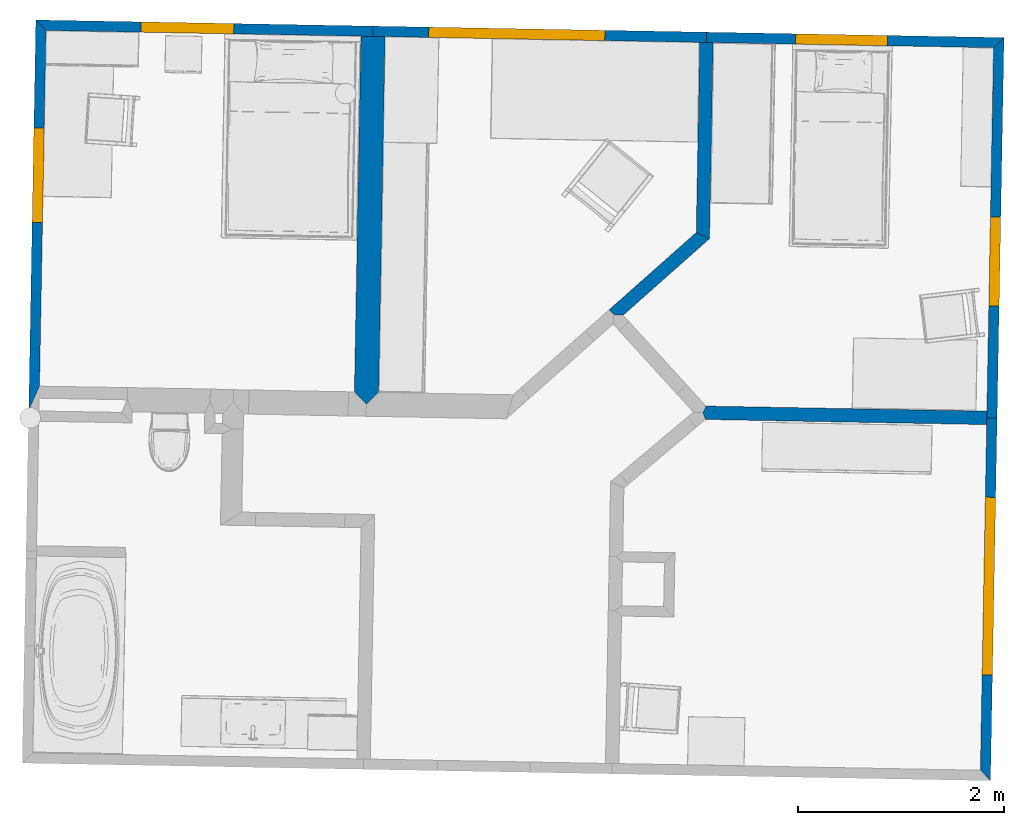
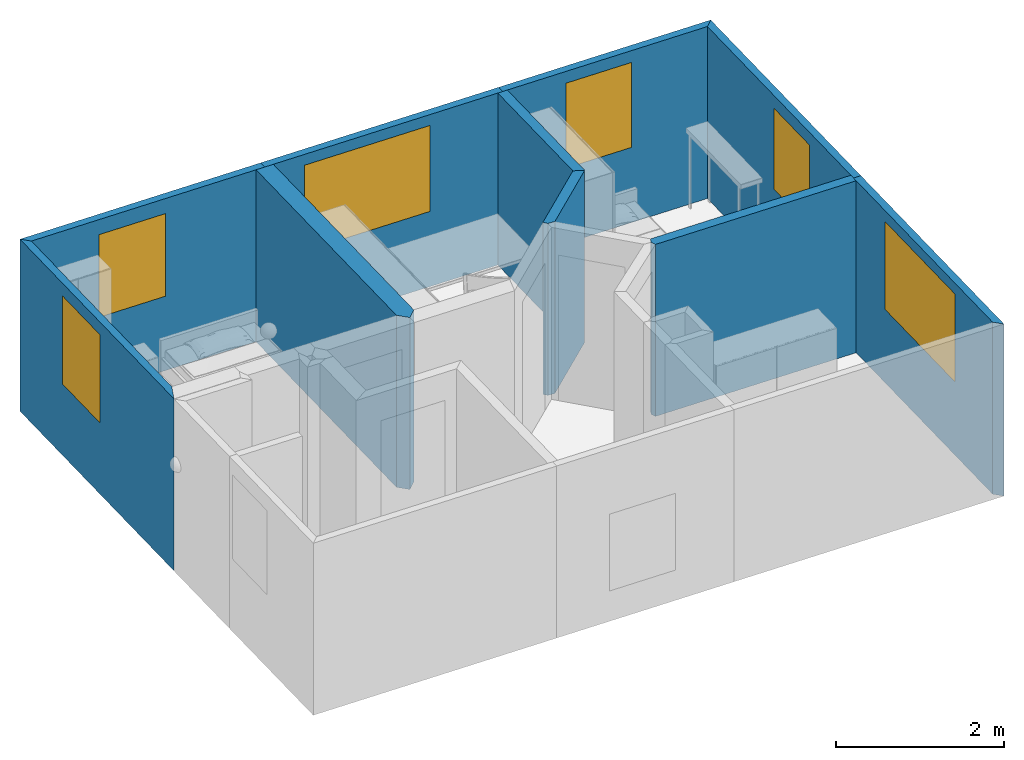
# One storey, part 2 of 9: 10 walls, 6 windows, 6 openings.
"""IFC2X3 building model written with IfcOpenShell, lengths in metres."""

from ifc_helpers import new_model, si_unit, frame, origin_with_axes, place, context, subcontext, project, spatial, polyline, outline, extrude, type_object, element, fill, save


model = new_model("IFC2X3")

# Units and contexts
model_context = context("Model", 3, precision=1e-05, world=origin_with_axes())
body_context = subcontext(model_context, "Body", "Model", "MODEL_VIEW")
ifc_project = project(units=[si_unit("AREAUNIT", "SQUARE_METRE"), si_unit("LENGTHUNIT", "METRE")], contexts=[model_context])

# Site, building, storey
site_placement = place(None, origin_with_axes())
site = spatial("IfcSite", under=ifc_project, at=site_placement, Name="Site", CompositionType="ELEMENT")
building_placement = place(site_placement, origin_with_axes())
building = spatial("IfcBuilding", under=site, at=building_placement, Name="Building", CompositionType="ELEMENT")
storey_placement = place(building_placement, frame((0.0, 0.0, 5.74363407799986), z_axis=(0.0, 0.0, 1.0), x_axis=(1.0, 0.0, 0.0)))
storey = spatial("IfcBuildingStorey", under=building, at=storey_placement, Name="Story 2", CompositionType="ELEMENT", Elevation=5.7436338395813)

# Wall
wall_type_1 = type_object("IfcWallType", PredefinedType="STANDARD")
wall_1_placement = place(storey_placement, frame((-4.52986943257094, 2.61322296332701, 0.0), z_axis=(0.0, 0.0, 1.0), x_axis=(1.0, 0.0, 0.0)))
element("IfcWallStandardCase", 1, at=wall_1_placement, inside=storey, type_object=wall_type_1, Name="Wall", context=body_context, shape_type="SweptSolid", body=[
    extrude(outline(polyline([(0.0, 0.0), (0.11770894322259, -0.00214253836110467), (0.235417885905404, -0.00428510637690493), (0.172463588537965, -3.46292641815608), (0.0526178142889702, -3.57817907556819), (-0.062954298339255, -3.45864136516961), (0.0, 0.0)])), origin_with_axes(), (0.0, 0.0, 1.0), 2.5045898),
])

# Wall, opening, window
wall_type_2 = type_object("IfcWallType", PredefinedType="STANDARD")
wall_2_placement = place(storey_placement, frame((-4.41034058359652, 2.71106386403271, 0.0), z_axis=(0.0, 0.0, 1.0), x_axis=(1.0, 0.0, 0.0)))
wall_2 = element("IfcWallStandardCase", 2, at=wall_2_placement, inside=storey, type_object=wall_type_2, Name="Wall", context=body_context, shape_type="SweptSolid", body=[
    extrude(outline(polyline([(0.0, 0.0), (-0.00181990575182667, -0.0999834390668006), (-0.119528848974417, -0.097840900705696), (-3.18174166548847, -0.0421024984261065), (-3.27990521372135, 0.0597008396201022), (0.0, 0.0)])), origin_with_axes(), (0.0, 0.0, 1.0), 2.5045898),
])
opening_1_placement = place(wall_2_placement, frame((-2.25721743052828, -0.0589306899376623, 1.08262053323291), z_axis=(0.0, 0.0, 1.0), x_axis=(0.9998343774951, -0.0181989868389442, 0.0)))
opening_1 = element("IfcOpeningElement", 3, at=opening_1_placement, cuts=wall_2, Name="OpeningElement", ObjectType="OPENING", context=body_context, shape_type="SweptSolid", body=[
    extrude(outline(polyline([(0.0, 0.0), (0.900679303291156, 0.0), (0.900679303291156, 1.20245901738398), (0.0, 1.20245901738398), (0.0, 0.0)])), frame((0.0, 0.0, 0.0), z_axis=(0.0, -1.0, 0.0), x_axis=(1.0, 0.0, 0.0)), (0.0, 0.0, -1.0), 0.100100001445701),
])
window_style_1 = type_object("IfcWindowStyle", Name="bc4a019a-a5ef-4653-89ee-db832ec977ac", ConstructionType="ALUMINIUM", OperationType="SINGLE_PANEL", ParameterTakesPrecedence=True, Sizeable=True)
window_1_placement = place(opening_1_placement, origin_with_axes())
window_1 = element("IfcWindow", 4, at=window_1_placement, inside=storey, type_object=window_style_1, Name="Window", OverallHeight=1.5, OverallWidth=0.5, context=body_context, shape_type="SweptSolid", body=[
    extrude(outline(polyline([(0.0, 0.0), (-0.900679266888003, 0.0), (-0.900679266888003, 1.202459), (0.0, 1.202459), (0.0, 0.0)])), frame((0.0, 0.100000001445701, 0.0), z_axis=(0.0, 1.0, 0.0), x_axis=(-1.0, 0.0, 0.0)), (0.0, 0.0, -1.0), 0.100000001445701),
])
fill(opening_1, window_1)

wall_type_3 = type_object("IfcWallType", PredefinedType="STANDARD")
wall_3_placement = place(storey_placement, frame((-7.69024579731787, 2.77076470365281, 0.0), z_axis=(0.0, 0.0, 1.0), x_axis=(1.0, 0.0, 0.0)))
wall_3 = element("IfcWallStandardCase", 5, at=wall_3_placement, inside=storey, type_object=wall_type_3, Name="Wall", context=body_context, shape_type="SweptSolid", body=[
    extrude(outline(polyline([(0.0, 0.0), (0.0981635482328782, -0.101803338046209), (0.0352096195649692, -3.56044478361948), (-0.0690514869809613, -3.79363670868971), (0.0, 0.0)])), origin_with_axes(), (0.0, 0.0, 1.0), 2.5045898),
])
opening_2_placement = place(wall_3_placement, frame((0.0641376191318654, -1.97116226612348, 1.03697592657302), z_axis=(0.0, 0.0, 1.0), x_axis=(0.0181989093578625, 0.999834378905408, 0.0)))
opening_2 = element("IfcOpeningElement", 6, at=opening_2_placement, cuts=wall_3, Name="OpeningElement", ObjectType="OPENING", context=body_context, shape_type="SweptSolid", body=[
    extrude(outline(polyline([(2.77555756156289e-17, 0.0), (0.920661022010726, 0.0), (0.920661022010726, 1.28316351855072), (2.77555756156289e-17, 1.28316351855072), (2.77555756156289e-17, 0.0)])), frame((0.0, 0.0, 0.0), z_axis=(0.0, -1.0, 0.0), x_axis=(1.0, 0.0, 0.0)), (0.0, 0.0, -1.0), 0.100100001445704),
])
window_style_2 = type_object("IfcWindowStyle", Name="44875e26-8fe4-4a2c-bc49-6e42ad4e1c44", ConstructionType="ALUMINIUM", OperationType="SINGLE_PANEL", ParameterTakesPrecedence=True, Sizeable=True)
window_2_placement = place(opening_2_placement, origin_with_axes())
window_2 = element("IfcWindow", 7, at=window_2_placement, inside=storey, type_object=window_style_2, Name="Window", OverallHeight=1.5, OverallWidth=0.5, context=body_context, shape_type="SweptSolid", body=[
    extrude(outline(polyline([(0.0, 0.0), (-0.920660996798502, 0.0), (-0.920660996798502, 1.2831635), (0.0, 1.2831635), (0.0, 0.0)])), frame((0.0, 0.100000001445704, 0.0), z_axis=(0.0, 1.0, 0.0), x_axis=(-1.0, 0.0, 0.0)), (0.0, 0.0, -1.0), 0.100000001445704),
])
fill(opening_2, window_2)

wall_type_4 = type_object("IfcWallType", PredefinedType="STANDARD")
wall_4_placement = place(storey_placement, frame((1.55476949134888, -1.163209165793, 0.0), z_axis=(0.0, 0.0, 1.0), x_axis=(1.0, 0.0, 0.0)))
wall_4 = element("IfcWallStandardCase", 8, at=wall_4_placement, inside=storey, type_object=wall_type_4, Name="Wall", context=body_context, shape_type="SweptSolid", body=[
    extrude(outline(polyline([(0.0, 0.0), (0.00118618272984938, 0.0651669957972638), (0.101169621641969, 0.0633470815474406), (0.0369910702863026, -3.46252062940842), (-0.0611724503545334, -3.36071729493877), (0.0, 0.0)])), origin_with_axes(), (0.0, 0.0, 1.0), 2.5045898),
])
opening_3_placement = place(wall_4_placement, frame((-0.0128463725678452, -0.705759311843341, 1.06759303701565), z_axis=(0.0, 0.0, 1.0), x_axis=(-0.0181991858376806, -0.999834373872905, 0.0)))
opening_3 = element("IfcOpeningElement", 9, at=opening_3_placement, cuts=wall_4, Name="OpeningElement", ObjectType="OPENING", context=body_context, shape_type="SweptSolid", body=[
    extrude(outline(polyline([(3.12250225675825e-17, 0.0), (1.72782692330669, 0.0), (1.72782692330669, 1.27812121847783), (3.12250225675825e-17, 1.27812121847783), (3.12250225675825e-17, 0.0)])), frame((0.0, 0.0, 0.0), z_axis=(0.0, -1.0, 0.0), x_axis=(1.0, 0.0, 0.0)), (0.0, 0.0, -1.0), 0.100100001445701),
])
window_style_3 = type_object("IfcWindowStyle", Name="1cfe54e8-f3de-4b98-b61a-bcfff93919e9", ConstructionType="ALUMINIUM", OperationType="SINGLE_PANEL", ParameterTakesPrecedence=True, Sizeable=True)
window_3_placement = place(opening_3_placement, origin_with_axes())
window_3 = element("IfcWindow", 10, at=window_3_placement, inside=storey, type_object=window_style_3, Name="Window", OverallHeight=1.5, OverallWidth=0.5, context=body_context, shape_type="SweptSolid", body=[
    extrude(outline(polyline([(2.77555756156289e-17, 0.0), (-1.72782704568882, 0.0), (-1.72782704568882, 1.2781212), (2.77555756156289e-17, 1.2781212), (2.77555756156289e-17, 0.0)])), frame((0.0, 0.100000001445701, 0.0), z_axis=(0.0, 1.0, 0.0), x_axis=(-1.0, 0.0, 0.0)), (0.0, 0.0, -1.0), 0.100000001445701),
])
fill(opening_3, window_3)

# Walls
wall_type_5 = type_object("IfcWallType", PredefinedType="STANDARD")
wall_5_placement = place(storey_placement, frame((1.55714185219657, -1.03287517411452, 0.0), z_axis=(0.0, 0.0, 1.0), x_axis=(1.0, 0.0, 0.0)))
element("IfcWallStandardCase", 11, at=wall_5_placement, inside=storey, type_object=wall_type_5, Name="Wall", context=body_context, shape_type="SweptSolid", body=[
    extrude(outline(polyline([(0.0, 0.0), (-0.00118617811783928, -0.0651669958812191), (-0.00237236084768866, -0.130333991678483), (-2.73757468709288, -0.0805431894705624), (-2.76082592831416, -0.0149313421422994), (-2.73155826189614, 0.0497244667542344), (0.0, 0.0)])), origin_with_axes(), (0.0, 0.0, 1.0), 2.5045898),
])
wall_type_6 = type_object("IfcWallType", PredefinedType="STANDARD")
wall_6_placement = place(storey_placement, frame((-1.26902809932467, 0.704355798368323, 0.0), z_axis=(0.0, 0.0, 1.0), x_axis=(1.0, 0.0, 0.0)))
element("IfcWallStandardCase", 12, at=wall_6_placement, inside=storey, type_object=wall_type_6, Name="Wall", context=body_context, shape_type="SweptSolid", body=[
    extrude(outline(polyline([(0.0, 0.0), (0.12929228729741, -0.0596024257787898), (-0.710492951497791, -0.80374118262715), (-0.803177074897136, -0.798784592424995), (-0.846402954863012, -0.750002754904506), (0.0, 0.0)])), origin_with_axes(), (0.0, 0.0, 1.0), 2.5045898),
])

# Wall, opening, window
wall_type_7 = type_object("IfcWallType", PredefinedType="STANDARD")
wall_7_placement = place(storey_placement, frame((1.6214705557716, 2.50125540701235, 0.0), z_axis=(0.0, 0.0, 1.0), x_axis=(1.0, 0.0, 0.0)))
wall_7 = element("IfcWallStandardCase", 13, at=wall_7_placement, inside=storey, type_object=wall_type_7, Name="Wall", context=body_context, shape_type="SweptSolid", body=[
    extrude(outline(polyline([(0.0, 0.0), (0.101803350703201, 0.0981635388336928), (0.0344685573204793, -3.60111748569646), (-0.0655148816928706, -3.59929757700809), (-0.0643287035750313, -3.53413058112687), (0.0, 0.0)])), origin_with_axes(), (0.0, 0.0, 1.0), 2.5045898),
])
opening_4_placement = place(wall_7_placement, frame((-0.0299613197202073, -1.64603373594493, 1.14042886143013), z_axis=(0.0, 0.0, 1.0), x_axis=(-0.0181991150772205, -0.999834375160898, 0.0)))
opening_4 = element("IfcOpeningElement", 14, at=opening_4_placement, cuts=wall_7, Name="OpeningElement", ObjectType="OPENING", context=body_context, shape_type="SweptSolid", body=[
    extrude(outline(polyline([(-3.46944695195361e-18, 0.0), (0.862988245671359, 0.0), (0.862988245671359, 1.17871624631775), (-3.46944695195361e-18, 1.17871624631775), (-3.46944695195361e-18, 0.0)])), frame((0.0, 0.0, 0.0), z_axis=(0.0, -1.0, 0.0), x_axis=(1.0, 0.0, 0.0)), (0.0, 0.0, -1.0), 0.100100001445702),
])
window_style_4 = type_object("IfcWindowStyle", Name="f6bf8d52-79fb-4e57-b680-29e34595e2ff", ConstructionType="ALUMINIUM", OperationType="SINGLE_PANEL", ParameterTakesPrecedence=True, Sizeable=True)
window_4_placement = place(opening_4_placement, origin_with_axes())
window_4 = element("IfcWindow", 15, at=window_4_placement, inside=storey, type_object=window_style_4, Name="Window", OverallHeight=1.5, OverallWidth=0.5, context=body_context, shape_type="SweptSolid", body=[
    extrude(outline(polyline([(-4.85722573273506e-17, 0.0), (-0.86298834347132, 0.0), (-0.86298834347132, 1.17871622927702), (-4.85722573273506e-17, 1.17871622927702), (-4.85722573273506e-17, 0.0)])), frame((0.0, 0.100000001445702, 0.0), z_axis=(0.0, 1.0, 0.0), x_axis=(-1.0, 0.0, 0.0)), (0.0, 0.0, -1.0), 0.100000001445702),
])
fill(opening_4, window_4)

wall_type_8 = type_object("IfcWallType", PredefinedType="STANDARD")
wall_8_placement = place(storey_placement, frame((1.7232739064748, 2.59941894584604, 0.0), z_axis=(0.0, 0.0, 1.0), x_axis=(1.0, 0.0, 0.0)))
wall_8 = element("IfcWallStandardCase", 16, at=wall_8_placement, inside=storey, type_object=wall_type_8, Name="Wall", context=body_context, shape_type="SweptSolid", body=[
    extrude(outline(polyline([(0.0, 0.0), (-0.101803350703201, -0.0981635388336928), (-2.82831424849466, -0.0485355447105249), (-2.89348124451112, -0.0473493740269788), (-2.89166133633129, 0.0526340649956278), (0.0, 0.0)])), origin_with_axes(), (0.0, 0.0, 1.0), 2.5045898),
])
opening_5_placement = place(wall_8_placement, frame((-2.02619896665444, -0.0631356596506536, 1.09590293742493), z_axis=(0.0, 0.0, 1.0), x_axis=(0.999834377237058, -0.0181990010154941, 0.0)))
opening_5 = element("IfcOpeningElement", 17, at=opening_5_placement, cuts=wall_8, Name="OpeningElement", ObjectType="OPENING", context=body_context, shape_type="SweptSolid", body=[
    extrude(outline(polyline([(0.0, 0.0), (0.891023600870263, 0.0), (0.891023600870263, 1.23639291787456), (0.0, 1.23639291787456), (0.0, 0.0)])), frame((0.0, 0.0, 0.0), z_axis=(0.0, -1.0, 0.0), x_axis=(1.0, 0.0, 0.0)), (0.0, 0.0, -1.0), 0.100100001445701),
])
window_style_5 = type_object("IfcWindowStyle", Name="daf2645c-f968-4262-abe3-0de419606304", ConstructionType="ALUMINIUM", OperationType="SINGLE_PANEL", ParameterTakesPrecedence=True, Sizeable=True)
window_5_placement = place(opening_5_placement, origin_with_axes())
window_5 = element("IfcWindow", 18, at=window_5_placement, inside=storey, type_object=window_style_5, Name="Window", OverallHeight=1.5, OverallWidth=0.5, context=body_context, shape_type="SweptSolid", body=[
    extrude(outline(polyline([(0.0, 0.0), (-0.891023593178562, 0.0), (-0.891023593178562, 1.2363929), (0.0, 1.2363929), (0.0, 0.0)])), frame((0.0, 0.100000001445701, 0.0), z_axis=(0.0, 1.0, 0.0), x_axis=(-1.0, 0.0, 0.0)), (0.0, 0.0, -1.0), 0.100000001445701),
])
fill(opening_5, window_5)

# Wall
wall_type_9 = type_object("IfcWallType", PredefinedType="STANDARD")
wall_9_placement = place(storey_placement, frame((-1.23537433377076, 2.55325575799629, 0.0), z_axis=(0.0, 0.0, 1.0), x_axis=(1.0, 0.0, 0.0)))
element("IfcWallStandardCase", 19, at=wall_9_placement, inside=storey, type_object=wall_type_9, Name="Wall", context=body_context, shape_type="SweptSolid", body=[
    extrude(outline(polyline([(0.0, 0.0), (0.0651669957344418, -0.00118618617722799), (0.1303339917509, -0.00237235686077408), (0.0956385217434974, -1.90850238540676), (-0.0336537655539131, -1.84889995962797), (0.0, 0.0)])), origin_with_axes(), (0.0, 0.0, 1.0), 2.5045898),
])

# Wall, opening, window
wall_type_10 = type_object("IfcWallType", PredefinedType="STANDARD")
wall_10_placement = place(storey_placement, frame((-1.16838741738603, 2.65205301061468, 0.0), z_axis=(0.0, 0.0, 1.0), x_axis=(1.0, 0.0, 0.0)))
wall_10 = element("IfcWallStandardCase", 20, at=wall_10_placement, inside=storey, type_object=wall_type_10, Name="Wall", context=body_context, shape_type="SweptSolid", body=[
    extrude(outline(polyline([(0.0, 0.0), (-0.00181992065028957, -0.0999834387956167), (-0.0669869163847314, -0.0987972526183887), (-3.12606412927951, -0.043115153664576), (-3.24377307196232, -0.0409725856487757), (-3.24195315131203, 0.059010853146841), (0.0, 0.0)])), origin_with_axes(), (0.0, 0.0, 1.0), 2.5045898),
])
opening_6_placement = place(wall_10_placement, frame((-2.70294520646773, -0.0508168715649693, 1.09493381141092), z_axis=(0.0, 0.0, 1.0), x_axis=(0.999834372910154, -0.0181992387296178, 0.0)))
opening_6 = element("IfcOpeningElement", 21, at=opening_6_placement, cuts=wall_10, Name="OpeningElement", ObjectType="OPENING", context=body_context, shape_type="SweptSolid", body=[
    extrude(outline(polyline([(0.0, 0.0), (1.71222149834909, 0.0), (1.71222149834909, 1.25124821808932), (0.0, 1.25124821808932), (0.0, 0.0)])), frame((0.0, 0.0, 0.0), z_axis=(0.0, -1.0, 0.0), x_axis=(1.0, 0.0, 0.0)), (0.0, 0.0, -1.0), 0.100100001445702),
])
window_style_6 = type_object("IfcWindowStyle", Name="bea286bd-88e1-4d7d-98d7-8dbc4e540daa", ConstructionType="ALUMINIUM", OperationType="SINGLE_PANEL", ParameterTakesPrecedence=True, Sizeable=True)
window_6_placement = place(opening_6_placement, origin_with_axes())
window_6 = element("IfcWindow", 22, at=window_6_placement, inside=storey, type_object=window_style_6, Name="Window", OverallHeight=1.5, OverallWidth=0.5, context=body_context, shape_type="SweptSolid", body=[
    extrude(outline(polyline([(0.0, 0.0), (-1.71222162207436, 0.0), (-1.71222162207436, 1.2512482), (0.0, 1.2512482), (0.0, 0.0)])), frame((0.0, 0.100000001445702, 0.0), z_axis=(0.0, 1.0, 0.0), x_axis=(-1.0, 0.0, 0.0)), (0.0, 0.0, -1.0), 0.100000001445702),
])
fill(opening_6, window_6)

save(model, "model.ifc")
